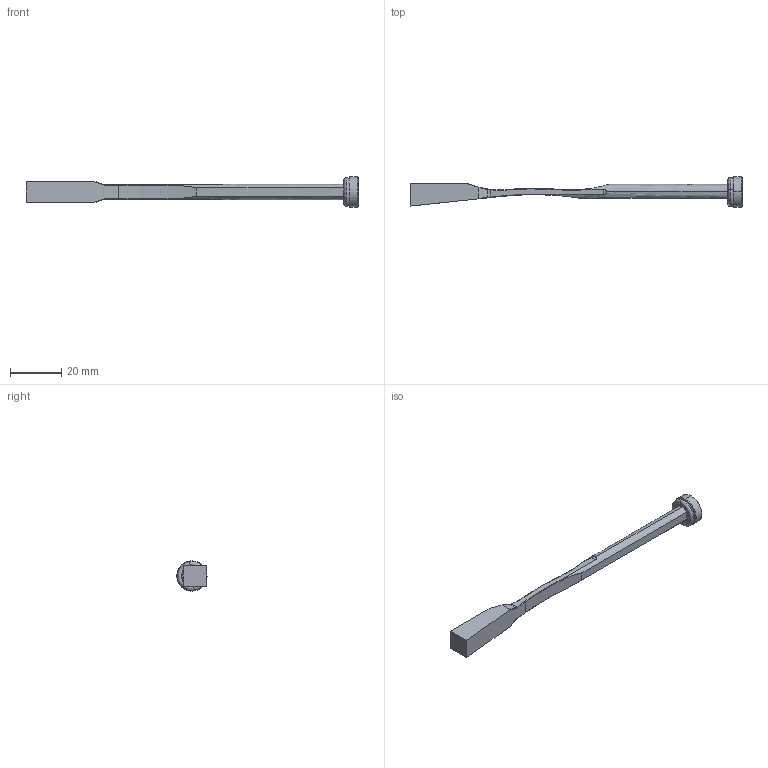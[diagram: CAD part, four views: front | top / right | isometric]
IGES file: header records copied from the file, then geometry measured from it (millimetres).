
Start section: START RECORD GO HERE.
Global section: file name: pw060822_injection.igs; native system: DASSAULT SYSTEMES CATIA V5 R20 - www.3ds.com; preprocessor: CATIA Version 5 Release 20 ; author: Utente; organization: NB04-ASUS; date: 20201108.134951; units: millimetre
Bounding box: 130 x 11.8 x 11.8 mm (x, y, z)
Surface area: 3989.2 mm2 (no closed solid volume)
Topology: 0 solids, 0 shells, 99 faces, 448 edges, 444 vertices
Faces by surface type: revolution 55, plane 32, bspline 12
